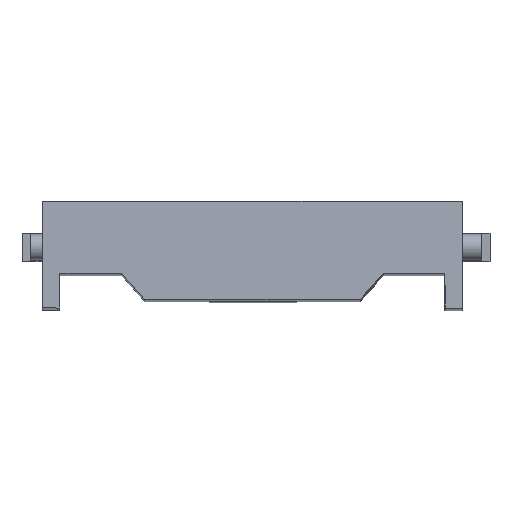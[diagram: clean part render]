
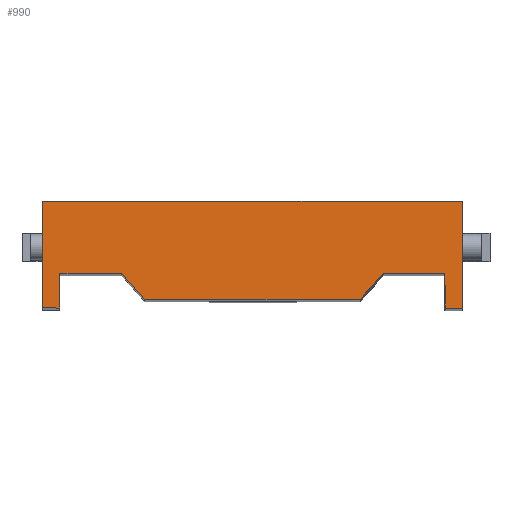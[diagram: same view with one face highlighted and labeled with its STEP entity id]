
A CAD part, top view. The second image highlights one B-rep face of the part: STEP entity #990.
In plain terms, the highlighted planar face has unit normal (0.001, 0.035, 0.999).
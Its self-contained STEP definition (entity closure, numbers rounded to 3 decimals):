
#70=PLANE('',#1126);
#121=FACE_OUTER_BOUND('',#176,.T.);
#176=EDGE_LOOP('',(#793,#794,#795,#796,#797,#798,#799,#800,#801,#802,#803,
#804));
#252=LINE('',#3302,#374);
#253=LINE('',#3304,#375);
#254=LINE('',#3306,#376);
#255=LINE('',#3308,#377);
#256=LINE('',#3310,#378);
#257=LINE('',#3312,#379);
#258=LINE('',#3314,#380);
#259=LINE('',#3316,#381);
#260=LINE('',#3318,#382);
#261=LINE('',#3320,#383);
#262=LINE('',#3322,#384);
#263=LINE('',#3323,#385);
#374=VECTOR('',#1272,10.);
#375=VECTOR('',#1273,10.);
#376=VECTOR('',#1274,10.);
#377=VECTOR('',#1275,10.);
#378=VECTOR('',#1276,10.);
#379=VECTOR('',#1277,10.);
#380=VECTOR('',#1278,10.);
#381=VECTOR('',#1279,10.);
#382=VECTOR('',#1280,10.);
#383=VECTOR('',#1281,10.);
#384=VECTOR('',#1282,10.);
#385=VECTOR('',#1283,10.);
#495=VERTEX_POINT('',#3300);
#496=VERTEX_POINT('',#3301);
#497=VERTEX_POINT('',#3303);
#498=VERTEX_POINT('',#3305);
#499=VERTEX_POINT('',#3307);
#500=VERTEX_POINT('',#3309);
#501=VERTEX_POINT('',#3311);
#502=VERTEX_POINT('',#3313);
#503=VERTEX_POINT('',#3315);
#504=VERTEX_POINT('',#3317);
#505=VERTEX_POINT('',#3319);
#506=VERTEX_POINT('',#3321);
#605=EDGE_CURVE('',#495,#496,#252,.T.);
#606=EDGE_CURVE('',#496,#497,#253,.T.);
#607=EDGE_CURVE('',#497,#498,#254,.T.);
#608=EDGE_CURVE('',#498,#499,#255,.T.);
#609=EDGE_CURVE('',#499,#500,#256,.T.);
#610=EDGE_CURVE('',#500,#501,#257,.T.);
#611=EDGE_CURVE('',#501,#502,#258,.T.);
#612=EDGE_CURVE('',#503,#502,#259,.T.);
#613=EDGE_CURVE('',#504,#503,#260,.T.);
#614=EDGE_CURVE('',#505,#504,#261,.T.);
#615=EDGE_CURVE('',#506,#505,#262,.T.);
#616=EDGE_CURVE('',#495,#506,#263,.T.);
#793=ORIENTED_EDGE('',*,*,#605,.T.);
#794=ORIENTED_EDGE('',*,*,#606,.T.);
#795=ORIENTED_EDGE('',*,*,#607,.T.);
#796=ORIENTED_EDGE('',*,*,#608,.T.);
#797=ORIENTED_EDGE('',*,*,#609,.T.);
#798=ORIENTED_EDGE('',*,*,#610,.T.);
#799=ORIENTED_EDGE('',*,*,#611,.T.);
#800=ORIENTED_EDGE('',*,*,#612,.F.);
#801=ORIENTED_EDGE('',*,*,#613,.F.);
#802=ORIENTED_EDGE('',*,*,#614,.F.);
#803=ORIENTED_EDGE('',*,*,#615,.F.);
#804=ORIENTED_EDGE('',*,*,#616,.F.);
#990=ADVANCED_FACE('',(#121),#70,.T.);
#1126=AXIS2_PLACEMENT_3D('',#3299,#1270,#1271);
#1270=DIRECTION('center_axis',(0.,0.035,0.999));
#1271=DIRECTION('ref_axis',(1.,0.,0.));
#1272=DIRECTION('',(1.,0.,0.));
#1273=DIRECTION('',(0.665,0.747,-0.026));
#1274=DIRECTION('',(1.,0.,0.));
#1275=DIRECTION('',(0.002,-0.999,0.035));
#1276=DIRECTION('',(1.,0.002,0.));
#1277=DIRECTION('',(0.,0.999,-0.035));
#1278=DIRECTION('',(-1.,0.,0.));
#1279=DIRECTION('',(0.,0.999,-0.035));
#1280=DIRECTION('',(-1.,0.002,0.));
#1281=DIRECTION('',(-0.002,-0.999,0.035));
#1282=DIRECTION('',(-1.,0.,0.));
#1283=DIRECTION('',(-0.664,0.747,-0.026));
#3299=CARTESIAN_POINT('Origin',(180.563,-13.145,64.7));
#3300=CARTESIAN_POINT('',(-187.288,-89.903,67.38));
#3301=CARTESIAN_POINT('',(185.001,-89.903,67.38));
#3302=CARTESIAN_POINT('',(-5.292,-89.903,67.38));
#3303=CARTESIAN_POINT('',(224.948,-45.046,65.814));
#3304=CARTESIAN_POINT('',(185.001,-89.903,67.38));
#3305=CARTESIAN_POINT('',(331.392,-45.046,65.814));
#3306=CARTESIAN_POINT('',(224.948,-45.046,65.814));
#3307=CARTESIAN_POINT('',(331.502,-105.27,67.917));
#3308=CARTESIAN_POINT('',(331.502,-105.27,67.917));
#3309=CARTESIAN_POINT('',(361.,-105.216,67.915));
#3310=CARTESIAN_POINT('',(361.148,-105.215,67.915));
#3311=CARTESIAN_POINT('',(361.,78.896,61.485));
#3312=CARTESIAN_POINT('',(361.,-34.419,65.442));
#3313=CARTESIAN_POINT('',(-363.286,79.063,61.48));
#3314=CARTESIAN_POINT('',(0.018,78.979,61.482));
#3315=CARTESIAN_POINT('',(-363.371,-105.049,67.909));
#3316=CARTESIAN_POINT('',(-363.338,-34.252,65.437));
#3317=CARTESIAN_POINT('',(-333.873,-105.116,67.911));
#3318=CARTESIAN_POINT('',(-363.519,-105.048,67.909));
#3319=CARTESIAN_POINT('',(-333.735,-44.893,65.808));
#3320=CARTESIAN_POINT('',(-333.873,-105.116,67.911));
#3321=CARTESIAN_POINT('',(-227.291,-44.942,65.81));
#3322=CARTESIAN_POINT('',(-227.291,-44.942,65.81));
#3323=CARTESIAN_POINT('',(-187.365,-89.817,67.377));
